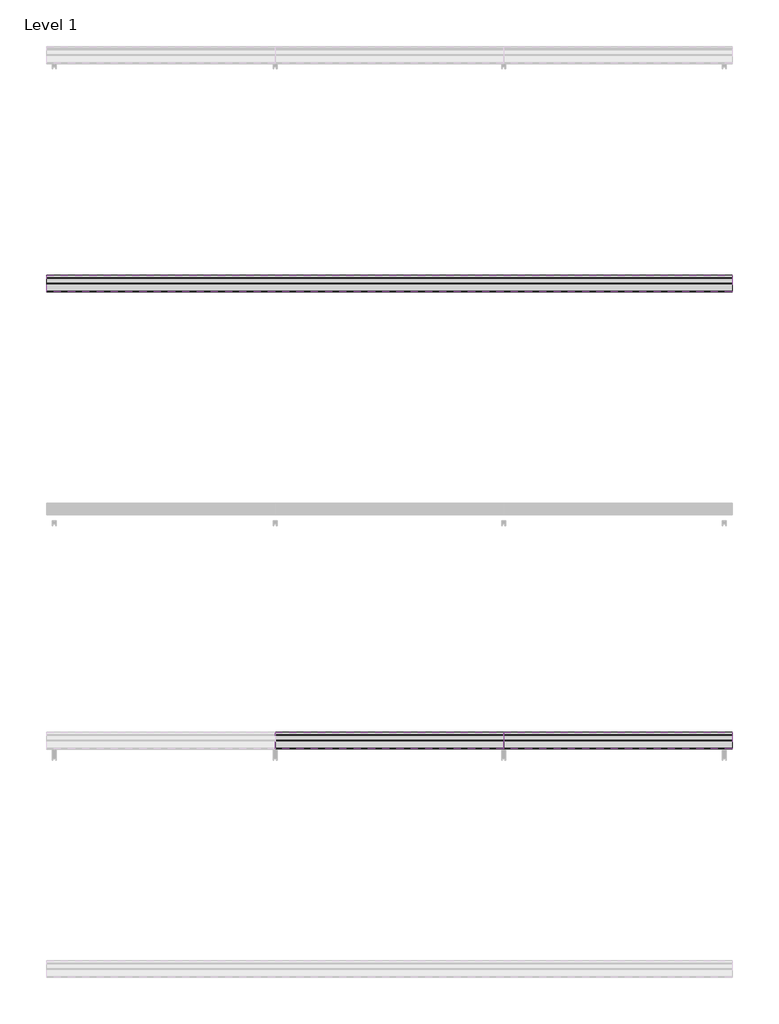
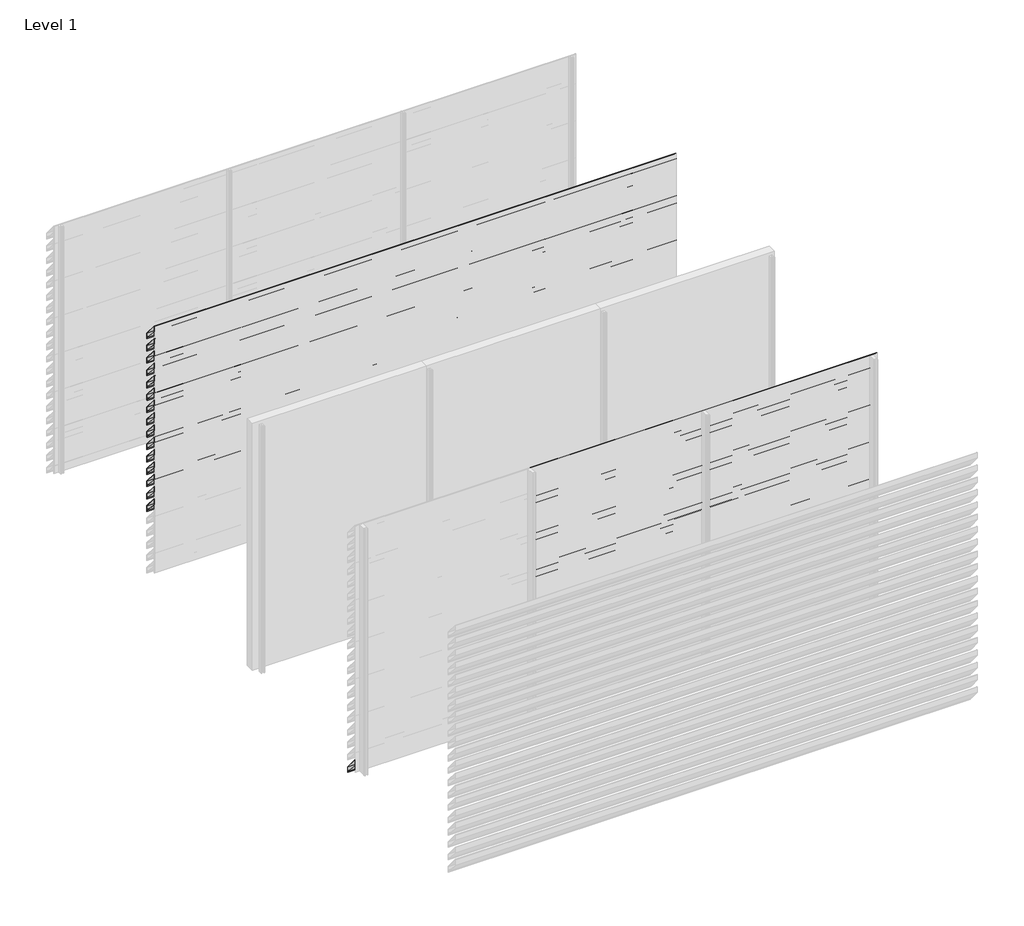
# One storey, part 12 of 16: 56 proxies.
"""IFC4 building model written with IfcOpenShell, lengths in millimetres."""

from ifc_helpers import new_model, si_unit, frame, origin, place, context, project, spatial, polyline, outline, extrude, element, save

model = new_model("IFC4")

# Units and contexts
model_context = context("Model", 3, world=origin())
ifc_project = project(units=[si_unit("LENGTHUNIT", "METRE", prefix="MILLI")], contexts=[model_context])

# Site, building, storey
site = spatial("IfcSite", under=ifc_project)
building = spatial("IfcBuilding", under=site)
storey = spatial("IfcBuildingStorey", under=building, Name="Level 1", Elevation=0.0)

# Proxies
placement = place(None, origin())
element("IfcBuildingElementProxy", 1, Name="Wall Sweeps", at=placement, inside=storey, context=model_context, shape_type="SweptSolid", body=[
    extrude(outline(polyline([(-13851.0, 2830.0), (-13851.0, 2761.0), (-13853.5, 2762.1657691), (-13853.5, 2775.7059843), (-13870.2498671, 2795.6676986), (-13880.9351065, 2795.6676986), (-13998.0, 2935.1802059), (-13998.0, 3000.0), (-13993.6469373, 3000.0), (-13851.0, 2830.0)]), holes=[polyline([(-13996.1, 2998.1), (-13996.1, 2935.8717493), (-13880.049122, 2797.5676986), (-13869.3638825, 2797.5676986), (-13852.9, 2777.9468074), (-13852.9, 2829.3084566), (-13994.5329219, 2998.1), (-13996.1, 2998.1)])]), frame((0.0, 0.0, 0.0), z_axis=(1.0, 0.0, 0.0), x_axis=(0.0, 1.0, 0.0)), (0.0, 0.0, 1.0), 6000.0),
])
element("IfcBuildingElementProxy", 2, Name="Wall Sweeps", at=placement, inside=storey, context=model_context, shape_type="SweptSolid", body=[
    extrude(outline(polyline([(-13851.0, 2680.0), (-13851.0, 2611.0), (-13853.5, 2612.1657691), (-13853.5, 2625.7059843), (-13870.2498671, 2645.6676986), (-13880.9351065, 2645.6676986), (-13998.0, 2785.1802059), (-13998.0, 2850.0), (-13993.6469373, 2850.0), (-13851.0, 2680.0)]), holes=[polyline([(-13996.1, 2848.1), (-13996.1, 2785.8717493), (-13880.049122, 2647.5676986), (-13869.3638825, 2647.5676986), (-13852.9, 2627.9468074), (-13852.9, 2679.3084566), (-13994.5329219, 2848.1), (-13996.1, 2848.1)])]), frame((0.0, 0.0, 0.0), z_axis=(1.0, 0.0, 0.0), x_axis=(0.0, 1.0, 0.0)), (0.0, 0.0, 1.0), 6000.0),
])
element("IfcBuildingElementProxy", 3, Name="Wall Sweeps", at=placement, inside=storey, context=model_context, shape_type="SweptSolid", body=[
    extrude(outline(polyline([(-13851.0, 2530.0), (-13851.0, 2461.0), (-13853.5, 2462.1657691), (-13853.5, 2475.7059843), (-13870.2498671, 2495.6676986), (-13880.9351065, 2495.6676986), (-13998.0, 2635.1802059), (-13998.0, 2700.0), (-13993.6469373, 2700.0), (-13851.0, 2530.0)]), holes=[polyline([(-13996.1, 2698.1), (-13996.1, 2635.8717493), (-13880.049122, 2497.5676986), (-13869.3638825, 2497.5676986), (-13852.9, 2477.9468074), (-13852.9, 2529.3084566), (-13994.5329219, 2698.1), (-13996.1, 2698.1)])]), frame((0.0, 0.0, 0.0), z_axis=(1.0, 0.0, 0.0), x_axis=(0.0, 1.0, 0.0)), (0.0, 0.0, 1.0), 6000.0),
])
element("IfcBuildingElementProxy", 4, Name="Wall Sweeps", at=placement, inside=storey, context=model_context, shape_type="SweptSolid", body=[
    extrude(outline(polyline([(-13851.0, 2380.0), (-13851.0, 2311.0), (-13853.5, 2312.1657691), (-13853.5, 2325.7059843), (-13870.2498671, 2345.6676986), (-13880.9351065, 2345.6676986), (-13998.0, 2485.1802059), (-13998.0, 2550.0), (-13993.6469373, 2550.0), (-13851.0, 2380.0)]), holes=[polyline([(-13996.1, 2548.1), (-13996.1, 2485.8717493), (-13880.049122, 2347.5676986), (-13869.3638825, 2347.5676986), (-13852.9, 2327.9468074), (-13852.9, 2379.3084566), (-13994.5329219, 2548.1), (-13996.1, 2548.1)])]), frame((0.0, 0.0, 0.0), z_axis=(1.0, 0.0, 0.0), x_axis=(0.0, 1.0, 0.0)), (0.0, 0.0, 1.0), 6000.0),
])
element("IfcBuildingElementProxy", 5, Name="Wall Sweeps", at=placement, inside=storey, context=model_context, shape_type="SweptSolid", body=[
    extrude(outline(polyline([(-13851.0, 2230.0), (-13851.0, 2161.0), (-13853.5, 2162.1657691), (-13853.5, 2175.7059843), (-13870.2498671, 2195.6676986), (-13880.9351065, 2195.6676986), (-13998.0, 2335.1802059), (-13998.0, 2400.0), (-13993.6469373, 2400.0), (-13851.0, 2230.0)]), holes=[polyline([(-13996.1, 2398.1), (-13996.1, 2335.8717493), (-13880.049122, 2197.5676986), (-13869.3638825, 2197.5676986), (-13852.9, 2177.9468074), (-13852.9, 2229.3084566), (-13994.5329219, 2398.1), (-13996.1, 2398.1)])]), frame((0.0, 0.0, 0.0), z_axis=(1.0, 0.0, 0.0), x_axis=(0.0, 1.0, 0.0)), (0.0, 0.0, 1.0), 6000.0),
])
element("IfcBuildingElementProxy", 6, Name="Wall Sweeps", at=placement, inside=storey, context=model_context, shape_type="SweptSolid", body=[
    extrude(outline(polyline([(-13851.0, 2080.0), (-13851.0, 2011.0), (-13853.5, 2012.1657691), (-13853.5, 2025.7059843), (-13870.2498671, 2045.6676986), (-13880.9351065, 2045.6676986), (-13998.0, 2185.1802059), (-13998.0, 2250.0), (-13993.6469373, 2250.0), (-13851.0, 2080.0)]), holes=[polyline([(-13996.1, 2248.1), (-13996.1, 2185.8717493), (-13880.049122, 2047.5676986), (-13869.3638825, 2047.5676986), (-13852.9, 2027.9468074), (-13852.9, 2079.3084566), (-13994.5329219, 2248.1), (-13996.1, 2248.1)])]), frame((0.0, 0.0, 0.0), z_axis=(1.0, 0.0, 0.0), x_axis=(0.0, 1.0, 0.0)), (0.0, 0.0, 1.0), 6000.0),
])
element("IfcBuildingElementProxy", 7, Name="Wall Sweeps", at=placement, inside=storey, context=model_context, shape_type="SweptSolid", body=[
    extrude(outline(polyline([(-13851.0, 1930.0), (-13851.0, 1861.0), (-13853.5, 1862.1657691), (-13853.5, 1875.7059843), (-13870.2498671, 1895.6676986), (-13880.9351065, 1895.6676986), (-13998.0, 2035.1802059), (-13998.0, 2100.0), (-13993.6469373, 2100.0), (-13851.0, 1930.0)]), holes=[polyline([(-13996.1, 2098.1), (-13996.1, 2035.8717493), (-13880.049122, 1897.5676986), (-13869.3638825, 1897.5676986), (-13852.9, 1877.9468074), (-13852.9, 1929.3084566), (-13994.5329219, 2098.1), (-13996.1, 2098.1)])]), frame((0.0, 0.0, 0.0), z_axis=(1.0, 0.0, 0.0), x_axis=(0.0, 1.0, 0.0)), (0.0, 0.0, 1.0), 6000.0),
])
element("IfcBuildingElementProxy", 8, Name="Wall Sweeps", at=placement, inside=storey, context=model_context, shape_type="SweptSolid", body=[
    extrude(outline(polyline([(-13851.0, 1780.0), (-13851.0, 1711.0), (-13853.5, 1712.1657691), (-13853.5, 1725.7059843), (-13870.2498671, 1745.6676986), (-13880.9351065, 1745.6676986), (-13998.0, 1885.1802059), (-13998.0, 1950.0), (-13993.6469373, 1950.0), (-13851.0, 1780.0)]), holes=[polyline([(-13996.1, 1948.1), (-13996.1, 1885.8717493), (-13880.049122, 1747.5676986), (-13869.3638825, 1747.5676986), (-13852.9, 1727.9468074), (-13852.9, 1779.3084566), (-13994.5329219, 1948.1), (-13996.1, 1948.1)])]), frame((0.0, 0.0, 0.0), z_axis=(1.0, 0.0, 0.0), x_axis=(0.0, 1.0, 0.0)), (0.0, 0.0, 1.0), 6000.0),
])
element("IfcBuildingElementProxy", 9, Name="Wall Sweeps", at=placement, inside=storey, context=model_context, shape_type="SweptSolid", body=[
    extrude(outline(polyline([(-13851.0, 1630.0), (-13851.0, 1561.0), (-13853.5, 1562.1657691), (-13853.5, 1575.7059843), (-13870.2498671, 1595.6676986), (-13880.9351065, 1595.6676986), (-13998.0, 1735.1802059), (-13998.0, 1800.0), (-13993.6469373, 1800.0), (-13851.0, 1630.0)]), holes=[polyline([(-13996.1, 1798.1), (-13996.1, 1735.8717493), (-13880.049122, 1597.5676986), (-13869.3638825, 1597.5676986), (-13852.9, 1577.9468074), (-13852.9, 1629.3084566), (-13994.5329219, 1798.1), (-13996.1, 1798.1)])]), frame((0.0, 0.0, 0.0), z_axis=(1.0, 0.0, 0.0), x_axis=(0.0, 1.0, 0.0)), (0.0, 0.0, 1.0), 6000.0),
])
element("IfcBuildingElementProxy", 10, Name="Wall Sweeps", at=placement, inside=storey, context=model_context, shape_type="SweptSolid", body=[
    extrude(outline(polyline([(-13851.0, 1480.0), (-13851.0, 1411.0), (-13853.5, 1412.1657691), (-13853.5, 1425.7059843), (-13870.2498671, 1445.6676986), (-13880.9351065, 1445.6676986), (-13998.0, 1585.1802059), (-13998.0, 1650.0), (-13993.6469373, 1650.0), (-13851.0, 1480.0)]), holes=[polyline([(-13996.1, 1648.1), (-13996.1, 1585.8717493), (-13880.049122, 1447.5676986), (-13869.3638825, 1447.5676986), (-13852.9, 1427.9468074), (-13852.9, 1479.3084566), (-13994.5329219, 1648.1), (-13996.1, 1648.1)])]), frame((0.0, 0.0, 0.0), z_axis=(1.0, 0.0, 0.0), x_axis=(0.0, 1.0, 0.0)), (0.0, 0.0, 1.0), 6000.0),
])
element("IfcBuildingElementProxy", 11, Name="Wall Sweeps", at=placement, inside=storey, context=model_context, shape_type="SweptSolid", body=[
    extrude(outline(polyline([(-13851.0, 1330.0), (-13851.0, 1261.0), (-13853.5, 1262.1657691), (-13853.5, 1275.7059843), (-13870.2498671, 1295.6676986), (-13880.9351065, 1295.6676986), (-13998.0, 1435.1802059), (-13998.0, 1500.0), (-13993.6469373, 1500.0), (-13851.0, 1330.0)]), holes=[polyline([(-13996.1, 1498.1), (-13996.1, 1435.8717493), (-13880.049122, 1297.5676986), (-13869.3638825, 1297.5676986), (-13852.9, 1277.9468074), (-13852.9, 1329.3084566), (-13994.5329219, 1498.1), (-13996.1, 1498.1)])]), frame((0.0, 0.0, 0.0), z_axis=(1.0, 0.0, 0.0), x_axis=(0.0, 1.0, 0.0)), (0.0, 0.0, 1.0), 6000.0),
])
element("IfcBuildingElementProxy", 12, Name="Wall Sweeps", at=placement, inside=storey, context=model_context, shape_type="SweptSolid", body=[
    extrude(outline(polyline([(-13851.0, 1180.0), (-13851.0, 1111.0), (-13853.5, 1112.1657691), (-13853.5, 1125.7059843), (-13870.2498671, 1145.6676986), (-13880.9351065, 1145.6676986), (-13998.0, 1285.1802059), (-13998.0, 1350.0), (-13993.6469373, 1350.0), (-13851.0, 1180.0)]), holes=[polyline([(-13996.1, 1348.1), (-13996.1, 1285.8717493), (-13880.049122, 1147.5676986), (-13869.3638825, 1147.5676986), (-13852.9, 1127.9468074), (-13852.9, 1179.3084566), (-13994.5329219, 1348.1), (-13996.1, 1348.1)])]), frame((0.0, 0.0, 0.0), z_axis=(1.0, 0.0, 0.0), x_axis=(0.0, 1.0, 0.0)), (0.0, 0.0, 1.0), 6000.0),
])
element("IfcBuildingElementProxy", 13, Name="Wall Sweeps", at=placement, inside=storey, context=model_context, shape_type="SweptSolid", body=[
    extrude(outline(polyline([(-13851.0, 1030.0), (-13851.0, 961.0), (-13853.5, 962.1657691), (-13853.5, 975.7059843), (-13870.2498671, 995.6676986), (-13880.9351065, 995.6676986), (-13998.0, 1135.1802059), (-13998.0, 1200.0), (-13993.6469373, 1200.0), (-13851.0, 1030.0)]), holes=[polyline([(-13996.1, 1198.1), (-13996.1, 1135.8717493), (-13880.049122, 997.5676986), (-13869.3638825, 997.5676986), (-13852.9, 977.9468074), (-13852.9, 1029.3084566), (-13994.5329219, 1198.1), (-13996.1, 1198.1)])]), frame((0.0, 0.0, 0.0), z_axis=(1.0, 0.0, 0.0), x_axis=(0.0, 1.0, 0.0)), (0.0, 0.0, 1.0), 6000.0),
])
element("IfcBuildingElementProxy", 14, Name="Wall Sweeps", at=placement, inside=storey, context=model_context, shape_type="SweptSolid", body=[
    extrude(outline(polyline([(-13851.0, 880.0), (-13851.0, 811.0), (-13853.5, 812.1657691), (-13853.5, 825.7059843), (-13870.2498671, 845.6676986), (-13880.9351065, 845.6676986), (-13998.0, 985.1802059), (-13998.0, 1050.0), (-13993.6469373, 1050.0), (-13851.0, 880.0)]), holes=[polyline([(-13996.1, 1048.1), (-13996.1, 985.8717493), (-13880.049122, 847.5676986), (-13869.3638825, 847.5676986), (-13852.9, 827.9468074), (-13852.9, 879.3084566), (-13994.5329219, 1048.1), (-13996.1, 1048.1)])]), frame((0.0, 0.0, 0.0), z_axis=(1.0, 0.0, 0.0), x_axis=(0.0, 1.0, 0.0)), (0.0, 0.0, 1.0), 6000.0),
])
element("IfcBuildingElementProxy", 15, Name="Wall Sweeps", at=placement, inside=storey, context=model_context, shape_type="SweptSolid", body=[
    extrude(outline(polyline([(-13851.0, 730.0), (-13851.0, 661.0), (-13853.5, 662.1657691), (-13853.5, 675.7059843), (-13870.2498671, 695.6676986), (-13880.9351065, 695.6676986), (-13998.0, 835.1802059), (-13998.0, 900.0), (-13993.6469373, 900.0), (-13851.0, 730.0)]), holes=[polyline([(-13996.1, 898.1), (-13996.1, 835.8717493), (-13880.049122, 697.5676986), (-13869.3638825, 697.5676986), (-13852.9, 677.9468074), (-13852.9, 729.3084566), (-13994.5329219, 898.1), (-13996.1, 898.1)])]), frame((0.0, 0.0, 0.0), z_axis=(1.0, 0.0, 0.0), x_axis=(0.0, 1.0, 0.0)), (0.0, 0.0, 1.0), 6000.0),
])
element("IfcBuildingElementProxy", 16, Name="Wall Sweeps", at=placement, inside=storey, context=model_context, shape_type="SweptSolid", body=[
    extrude(outline(polyline([(-17851.0, -20.0), (-17851.0, -89.0), (-17853.5, -87.8342309), (-17853.5, -74.2940157), (-17870.2498671, -54.3323014), (-17880.9351065, -54.3323014), (-17998.0, 85.1802059), (-17998.0, 150.0), (-17993.6469373, 150.0), (-17851.0, -20.0)]), holes=[polyline([(-17996.1, 148.1), (-17996.1, 85.8717493), (-17880.049122, -52.4323014), (-17869.3638825, -52.4323014), (-17852.9, -72.0531926), (-17852.9, -20.6915434), (-17994.5329219, 148.1), (-17996.1, 148.1)])]), frame((0.0, 0.0, 0.0), z_axis=(1.0, 0.0, 0.0), x_axis=(0.0, 1.0, 0.0)), (0.0, 0.0, 1.0), 2000.0),
])
element("IfcBuildingElementProxy", 17, Name="Wall Sweeps", at=placement, inside=storey, context=model_context, shape_type="SweptSolid", body=[
    extrude(outline(polyline([(-17851.0, 2830.0), (-17851.0, 2761.0), (-17853.5, 2762.1657691), (-17853.5, 2775.7059843), (-17870.2498671, 2795.6676986), (-17880.9351065, 2795.6676986), (-17998.0, 2935.1802059), (-17998.0, 3000.0), (-17993.6469373, 3000.0), (-17851.0, 2830.0)]), holes=[polyline([(-17996.1, 2998.1), (-17996.1, 2935.8717493), (-17880.049122, 2797.5676986), (-17869.3638825, 2797.5676986), (-17852.9, 2777.9468074), (-17852.9, 2829.3084566), (-17994.5329219, 2998.1), (-17996.1, 2998.1)])]), frame((2000.0, 0.0, 0.0), z_axis=(1.0, 0.0, 0.0), x_axis=(0.0, 1.0, 0.0)), (0.0, 0.0, 1.0), 2000.0),
])
element("IfcBuildingElementProxy", 18, Name="Wall Sweeps", at=placement, inside=storey, context=model_context, shape_type="SweptSolid", body=[
    extrude(outline(polyline([(-17851.0, 2680.0), (-17851.0, 2611.0), (-17853.5, 2612.1657691), (-17853.5, 2625.7059843), (-17870.2498671, 2645.6676986), (-17880.9351065, 2645.6676986), (-17998.0, 2785.1802059), (-17998.0, 2850.0), (-17993.6469373, 2850.0), (-17851.0, 2680.0)]), holes=[polyline([(-17996.1, 2848.1), (-17996.1, 2785.8717493), (-17880.049122, 2647.5676986), (-17869.3638825, 2647.5676986), (-17852.9, 2627.9468074), (-17852.9, 2679.3084566), (-17994.5329219, 2848.1), (-17996.1, 2848.1)])]), frame((2000.0, 0.0, 0.0), z_axis=(1.0, 0.0, 0.0), x_axis=(0.0, 1.0, 0.0)), (0.0, 0.0, 1.0), 2000.0),
])
element("IfcBuildingElementProxy", 19, Name="Wall Sweeps", at=placement, inside=storey, context=model_context, shape_type="SweptSolid", body=[
    extrude(outline(polyline([(-17851.0, 2530.0), (-17851.0, 2461.0), (-17853.5, 2462.1657691), (-17853.5, 2475.7059843), (-17870.2498671, 2495.6676986), (-17880.9351065, 2495.6676986), (-17998.0, 2635.1802059), (-17998.0, 2700.0), (-17993.6469373, 2700.0), (-17851.0, 2530.0)]), holes=[polyline([(-17996.1, 2698.1), (-17996.1, 2635.8717493), (-17880.049122, 2497.5676986), (-17869.3638825, 2497.5676986), (-17852.9, 2477.9468074), (-17852.9, 2529.3084566), (-17994.5329219, 2698.1), (-17996.1, 2698.1)])]), frame((2000.0, 0.0, 0.0), z_axis=(1.0, 0.0, 0.0), x_axis=(0.0, 1.0, 0.0)), (0.0, 0.0, 1.0), 2000.0),
])
element("IfcBuildingElementProxy", 20, Name="Wall Sweeps", at=placement, inside=storey, context=model_context, shape_type="SweptSolid", body=[
    extrude(outline(polyline([(-17851.0, 2380.0), (-17851.0, 2311.0), (-17853.5, 2312.1657691), (-17853.5, 2325.7059843), (-17870.2498671, 2345.6676986), (-17880.9351065, 2345.6676986), (-17998.0, 2485.1802059), (-17998.0, 2550.0), (-17993.6469373, 2550.0), (-17851.0, 2380.0)]), holes=[polyline([(-17996.1, 2548.1), (-17996.1, 2485.8717493), (-17880.049122, 2347.5676986), (-17869.3638825, 2347.5676986), (-17852.9, 2327.9468074), (-17852.9, 2379.3084566), (-17994.5329219, 2548.1), (-17996.1, 2548.1)])]), frame((2000.0, 0.0, 0.0), z_axis=(1.0, 0.0, 0.0), x_axis=(0.0, 1.0, 0.0)), (0.0, 0.0, 1.0), 2000.0),
])
element("IfcBuildingElementProxy", 21, Name="Wall Sweeps", at=placement, inside=storey, context=model_context, shape_type="SweptSolid", body=[
    extrude(outline(polyline([(-17851.0, 2230.0), (-17851.0, 2161.0), (-17853.5, 2162.1657691), (-17853.5, 2175.7059843), (-17870.2498671, 2195.6676986), (-17880.9351065, 2195.6676986), (-17998.0, 2335.1802059), (-17998.0, 2400.0), (-17993.6469373, 2400.0), (-17851.0, 2230.0)]), holes=[polyline([(-17996.1, 2398.1), (-17996.1, 2335.8717493), (-17880.049122, 2197.5676986), (-17869.3638825, 2197.5676986), (-17852.9, 2177.9468074), (-17852.9, 2229.3084566), (-17994.5329219, 2398.1), (-17996.1, 2398.1)])]), frame((2000.0, 0.0, 0.0), z_axis=(1.0, 0.0, 0.0), x_axis=(0.0, 1.0, 0.0)), (0.0, 0.0, 1.0), 2000.0),
])
element("IfcBuildingElementProxy", 22, Name="Wall Sweeps", at=placement, inside=storey, context=model_context, shape_type="SweptSolid", body=[
    extrude(outline(polyline([(-17851.0, 2080.0), (-17851.0, 2011.0), (-17853.5, 2012.1657691), (-17853.5, 2025.7059843), (-17870.2498671, 2045.6676986), (-17880.9351065, 2045.6676986), (-17998.0, 2185.1802059), (-17998.0, 2250.0), (-17993.6469373, 2250.0), (-17851.0, 2080.0)]), holes=[polyline([(-17996.1, 2248.1), (-17996.1, 2185.8717493), (-17880.049122, 2047.5676986), (-17869.3638825, 2047.5676986), (-17852.9, 2027.9468074), (-17852.9, 2079.3084566), (-17994.5329219, 2248.1), (-17996.1, 2248.1)])]), frame((2000.0, 0.0, 0.0), z_axis=(1.0, 0.0, 0.0), x_axis=(0.0, 1.0, 0.0)), (0.0, 0.0, 1.0), 2000.0),
])
element("IfcBuildingElementProxy", 23, Name="Wall Sweeps", at=placement, inside=storey, context=model_context, shape_type="SweptSolid", body=[
    extrude(outline(polyline([(-17851.0, 1930.0), (-17851.0, 1861.0), (-17853.5, 1862.1657691), (-17853.5, 1875.7059843), (-17870.2498671, 1895.6676986), (-17880.9351065, 1895.6676986), (-17998.0, 2035.1802059), (-17998.0, 2100.0), (-17993.6469373, 2100.0), (-17851.0, 1930.0)]), holes=[polyline([(-17996.1, 2098.1), (-17996.1, 2035.8717493), (-17880.049122, 1897.5676986), (-17869.3638825, 1897.5676986), (-17852.9, 1877.9468074), (-17852.9, 1929.3084566), (-17994.5329219, 2098.1), (-17996.1, 2098.1)])]), frame((2000.0, 0.0, 0.0), z_axis=(1.0, 0.0, 0.0), x_axis=(0.0, 1.0, 0.0)), (0.0, 0.0, 1.0), 2000.0),
])
element("IfcBuildingElementProxy", 24, Name="Wall Sweeps", at=placement, inside=storey, context=model_context, shape_type="SweptSolid", body=[
    extrude(outline(polyline([(-17851.0, 1780.0), (-17851.0, 1711.0), (-17853.5, 1712.1657691), (-17853.5, 1725.7059843), (-17870.2498671, 1745.6676986), (-17880.9351065, 1745.6676986), (-17998.0, 1885.1802059), (-17998.0, 1950.0), (-17993.6469373, 1950.0), (-17851.0, 1780.0)]), holes=[polyline([(-17996.1, 1948.1), (-17996.1, 1885.8717493), (-17880.049122, 1747.5676986), (-17869.3638825, 1747.5676986), (-17852.9, 1727.9468074), (-17852.9, 1779.3084566), (-17994.5329219, 1948.1), (-17996.1, 1948.1)])]), frame((2000.0, 0.0, 0.0), z_axis=(1.0, 0.0, 0.0), x_axis=(0.0, 1.0, 0.0)), (0.0, 0.0, 1.0), 2000.0),
])
element("IfcBuildingElementProxy", 25, Name="Wall Sweeps", at=placement, inside=storey, context=model_context, shape_type="SweptSolid", body=[
    extrude(outline(polyline([(-17851.0, 1630.0), (-17851.0, 1561.0), (-17853.5, 1562.1657691), (-17853.5, 1575.7059843), (-17870.2498671, 1595.6676986), (-17880.9351065, 1595.6676986), (-17998.0, 1735.1802059), (-17998.0, 1800.0), (-17993.6469373, 1800.0), (-17851.0, 1630.0)]), holes=[polyline([(-17996.1, 1798.1), (-17996.1, 1735.8717493), (-17880.049122, 1597.5676986), (-17869.3638825, 1597.5676986), (-17852.9, 1577.9468074), (-17852.9, 1629.3084566), (-17994.5329219, 1798.1), (-17996.1, 1798.1)])]), frame((2000.0, 0.0, 0.0), z_axis=(1.0, 0.0, 0.0), x_axis=(0.0, 1.0, 0.0)), (0.0, 0.0, 1.0), 2000.0),
])
element("IfcBuildingElementProxy", 26, Name="Wall Sweeps", at=placement, inside=storey, context=model_context, shape_type="SweptSolid", body=[
    extrude(outline(polyline([(-17851.0, 1480.0), (-17851.0, 1411.0), (-17853.5, 1412.1657691), (-17853.5, 1425.7059843), (-17870.2498671, 1445.6676986), (-17880.9351065, 1445.6676986), (-17998.0, 1585.1802059), (-17998.0, 1650.0), (-17993.6469373, 1650.0), (-17851.0, 1480.0)]), holes=[polyline([(-17996.1, 1648.1), (-17996.1, 1585.8717493), (-17880.049122, 1447.5676986), (-17869.3638825, 1447.5676986), (-17852.9, 1427.9468074), (-17852.9, 1479.3084566), (-17994.5329219, 1648.1), (-17996.1, 1648.1)])]), frame((2000.0, 0.0, 0.0), z_axis=(1.0, 0.0, 0.0), x_axis=(0.0, 1.0, 0.0)), (0.0, 0.0, 1.0), 2000.0),
])
element("IfcBuildingElementProxy", 27, Name="Wall Sweeps", at=placement, inside=storey, context=model_context, shape_type="SweptSolid", body=[
    extrude(outline(polyline([(-17851.0, 1330.0), (-17851.0, 1261.0), (-17853.5, 1262.1657691), (-17853.5, 1275.7059843), (-17870.2498671, 1295.6676986), (-17880.9351065, 1295.6676986), (-17998.0, 1435.1802059), (-17998.0, 1500.0), (-17993.6469373, 1500.0), (-17851.0, 1330.0)]), holes=[polyline([(-17996.1, 1498.1), (-17996.1, 1435.8717493), (-17880.049122, 1297.5676986), (-17869.3638825, 1297.5676986), (-17852.9, 1277.9468074), (-17852.9, 1329.3084566), (-17994.5329219, 1498.1), (-17996.1, 1498.1)])]), frame((2000.0, 0.0, 0.0), z_axis=(1.0, 0.0, 0.0), x_axis=(0.0, 1.0, 0.0)), (0.0, 0.0, 1.0), 2000.0),
])
element("IfcBuildingElementProxy", 28, Name="Wall Sweeps", at=placement, inside=storey, context=model_context, shape_type="SweptSolid", body=[
    extrude(outline(polyline([(-17851.0, 1180.0), (-17851.0, 1111.0), (-17853.5, 1112.1657691), (-17853.5, 1125.7059843), (-17870.2498671, 1145.6676986), (-17880.9351065, 1145.6676986), (-17998.0, 1285.1802059), (-17998.0, 1350.0), (-17993.6469373, 1350.0), (-17851.0, 1180.0)]), holes=[polyline([(-17996.1, 1348.1), (-17996.1, 1285.8717493), (-17880.049122, 1147.5676986), (-17869.3638825, 1147.5676986), (-17852.9, 1127.9468074), (-17852.9, 1179.3084566), (-17994.5329219, 1348.1), (-17996.1, 1348.1)])]), frame((2000.0, 0.0, 0.0), z_axis=(1.0, 0.0, 0.0), x_axis=(0.0, 1.0, 0.0)), (0.0, 0.0, 1.0), 2000.0),
])
element("IfcBuildingElementProxy", 29, Name="Wall Sweeps", at=placement, inside=storey, context=model_context, shape_type="SweptSolid", body=[
    extrude(outline(polyline([(-17851.0, 1030.0), (-17851.0, 961.0), (-17853.5, 962.1657691), (-17853.5, 975.7059843), (-17870.2498671, 995.6676986), (-17880.9351065, 995.6676986), (-17998.0, 1135.1802059), (-17998.0, 1200.0), (-17993.6469373, 1200.0), (-17851.0, 1030.0)]), holes=[polyline([(-17996.1, 1198.1), (-17996.1, 1135.8717493), (-17880.049122, 997.5676986), (-17869.3638825, 997.5676986), (-17852.9, 977.9468074), (-17852.9, 1029.3084566), (-17994.5329219, 1198.1), (-17996.1, 1198.1)])]), frame((2000.0, 0.0, 0.0), z_axis=(1.0, 0.0, 0.0), x_axis=(0.0, 1.0, 0.0)), (0.0, 0.0, 1.0), 2000.0),
])
element("IfcBuildingElementProxy", 30, Name="Wall Sweeps", at=placement, inside=storey, context=model_context, shape_type="SweptSolid", body=[
    extrude(outline(polyline([(-17851.0, 880.0), (-17851.0, 811.0), (-17853.5, 812.1657691), (-17853.5, 825.7059843), (-17870.2498671, 845.6676986), (-17880.9351065, 845.6676986), (-17998.0, 985.1802059), (-17998.0, 1050.0), (-17993.6469373, 1050.0), (-17851.0, 880.0)]), holes=[polyline([(-17996.1, 1048.1), (-17996.1, 985.8717493), (-17880.049122, 847.5676986), (-17869.3638825, 847.5676986), (-17852.9, 827.9468074), (-17852.9, 879.3084566), (-17994.5329219, 1048.1), (-17996.1, 1048.1)])]), frame((2000.0, 0.0, 0.0), z_axis=(1.0, 0.0, 0.0), x_axis=(0.0, 1.0, 0.0)), (0.0, 0.0, 1.0), 2000.0),
])
element("IfcBuildingElementProxy", 31, Name="Wall Sweeps", at=placement, inside=storey, context=model_context, shape_type="SweptSolid", body=[
    extrude(outline(polyline([(-17851.0, 730.0), (-17851.0, 661.0), (-17853.5, 662.1657691), (-17853.5, 675.7059843), (-17870.2498671, 695.6676986), (-17880.9351065, 695.6676986), (-17998.0, 835.1802059), (-17998.0, 900.0), (-17993.6469373, 900.0), (-17851.0, 730.0)]), holes=[polyline([(-17996.1, 898.1), (-17996.1, 835.8717493), (-17880.049122, 697.5676986), (-17869.3638825, 697.5676986), (-17852.9, 677.9468074), (-17852.9, 729.3084566), (-17994.5329219, 898.1), (-17996.1, 898.1)])]), frame((2000.0, 0.0, 0.0), z_axis=(1.0, 0.0, 0.0), x_axis=(0.0, 1.0, 0.0)), (0.0, 0.0, 1.0), 2000.0),
])
element("IfcBuildingElementProxy", 32, Name="Wall Sweeps", at=placement, inside=storey, context=model_context, shape_type="SweptSolid", body=[
    extrude(outline(polyline([(-17851.0, 580.0), (-17851.0, 511.0), (-17853.5, 512.1657691), (-17853.5, 525.7059843), (-17870.2498671, 545.6676986), (-17880.9351065, 545.6676986), (-17998.0, 685.1802059), (-17998.0, 750.0), (-17993.6469373, 750.0), (-17851.0, 580.0)]), holes=[polyline([(-17996.1, 748.1), (-17996.1, 685.8717493), (-17880.049122, 547.5676986), (-17869.3638825, 547.5676986), (-17852.9, 527.9468074), (-17852.9, 579.3084566), (-17994.5329219, 748.1), (-17996.1, 748.1)])]), frame((2000.0, 0.0, 0.0), z_axis=(1.0, 0.0, 0.0), x_axis=(0.0, 1.0, 0.0)), (0.0, 0.0, 1.0), 2000.0),
])
element("IfcBuildingElementProxy", 33, Name="Wall Sweeps", at=placement, inside=storey, context=model_context, shape_type="SweptSolid", body=[
    extrude(outline(polyline([(-17851.0, 430.0), (-17851.0, 361.0), (-17853.5, 362.1657691), (-17853.5, 375.7059843), (-17870.2498671, 395.6676986), (-17880.9351065, 395.6676986), (-17998.0, 535.1802059), (-17998.0, 600.0), (-17993.6469373, 600.0), (-17851.0, 430.0)]), holes=[polyline([(-17996.1, 598.1), (-17996.1, 535.8717493), (-17880.049122, 397.5676986), (-17869.3638825, 397.5676986), (-17852.9, 377.9468074), (-17852.9, 429.3084566), (-17994.5329219, 598.1), (-17996.1, 598.1)])]), frame((2000.0, 0.0, 0.0), z_axis=(1.0, 0.0, 0.0), x_axis=(0.0, 1.0, 0.0)), (0.0, 0.0, 1.0), 2000.0),
])
element("IfcBuildingElementProxy", 34, Name="Wall Sweeps", at=placement, inside=storey, context=model_context, shape_type="SweptSolid", body=[
    extrude(outline(polyline([(-17851.0, 280.0), (-17851.0, 211.0), (-17853.5, 212.1657691), (-17853.5, 225.7059843), (-17870.2498671, 245.6676986), (-17880.9351065, 245.6676986), (-17998.0, 385.1802059), (-17998.0, 450.0), (-17993.6469373, 450.0), (-17851.0, 280.0)]), holes=[polyline([(-17996.1, 448.1), (-17996.1, 385.8717493), (-17880.049122, 247.5676986), (-17869.3638825, 247.5676986), (-17852.9, 227.9468074), (-17852.9, 279.3084566), (-17994.5329219, 448.1), (-17996.1, 448.1)])]), frame((2000.0, 0.0, 0.0), z_axis=(1.0, 0.0, 0.0), x_axis=(0.0, 1.0, 0.0)), (0.0, 0.0, 1.0), 2000.0),
])
element("IfcBuildingElementProxy", 35, Name="Wall Sweeps", at=placement, inside=storey, context=model_context, shape_type="SweptSolid", body=[
    extrude(outline(polyline([(-17851.0, 130.0), (-17851.0, 61.0), (-17853.5, 62.1657691), (-17853.5, 75.7059843), (-17870.2498671, 95.6676986), (-17880.9351065, 95.6676986), (-17998.0, 235.1802059), (-17998.0, 300.0), (-17993.6469373, 300.0), (-17851.0, 130.0)]), holes=[polyline([(-17996.1, 298.1), (-17996.1, 235.8717493), (-17880.049122, 97.5676986), (-17869.3638825, 97.5676986), (-17852.9, 77.9468074), (-17852.9, 129.3084566), (-17994.5329219, 298.1), (-17996.1, 298.1)])]), frame((2000.0, 0.0, 0.0), z_axis=(1.0, 0.0, 0.0), x_axis=(0.0, 1.0, 0.0)), (0.0, 0.0, 1.0), 2000.0),
])
element("IfcBuildingElementProxy", 36, Name="Wall Sweeps", at=placement, inside=storey, context=model_context, shape_type="SweptSolid", body=[
    extrude(outline(polyline([(-17851.0, -20.0), (-17851.0, -89.0), (-17853.5, -87.8342309), (-17853.5, -74.2940157), (-17870.2498671, -54.3323014), (-17880.9351065, -54.3323014), (-17998.0, 85.1802059), (-17998.0, 150.0), (-17993.6469373, 150.0), (-17851.0, -20.0)]), holes=[polyline([(-17996.1, 148.1), (-17996.1, 85.8717493), (-17880.049122, -52.4323014), (-17869.3638825, -52.4323014), (-17852.9, -72.0531926), (-17852.9, -20.6915434), (-17994.5329219, 148.1), (-17996.1, 148.1)])]), frame((2000.0, 0.0, 0.0), z_axis=(1.0, 0.0, 0.0), x_axis=(0.0, 1.0, 0.0)), (0.0, 0.0, 1.0), 2000.0),
])
element("IfcBuildingElementProxy", 37, Name="Wall Sweeps", at=placement, inside=storey, context=model_context, shape_type="SweptSolid", body=[
    extrude(outline(polyline([(-17851.0, 2830.0), (-17851.0, 2761.0), (-17853.5, 2762.1657691), (-17853.5, 2775.7059843), (-17870.2498671, 2795.6676986), (-17880.9351065, 2795.6676986), (-17998.0, 2935.1802059), (-17998.0, 3000.0), (-17993.6469373, 3000.0), (-17851.0, 2830.0)]), holes=[polyline([(-17996.1, 2998.1), (-17996.1, 2935.8717493), (-17880.049122, 2797.5676986), (-17869.3638825, 2797.5676986), (-17852.9, 2777.9468074), (-17852.9, 2829.3084566), (-17994.5329219, 2998.1), (-17996.1, 2998.1)])]), frame((4000.0, 0.0, 0.0), z_axis=(1.0, 0.0, 0.0), x_axis=(0.0, 1.0, 0.0)), (0.0, 0.0, 1.0), 2000.0),
])
element("IfcBuildingElementProxy", 38, Name="Wall Sweeps", at=placement, inside=storey, context=model_context, shape_type="SweptSolid", body=[
    extrude(outline(polyline([(-17851.0, 2680.0), (-17851.0, 2611.0), (-17853.5, 2612.1657691), (-17853.5, 2625.7059843), (-17870.2498671, 2645.6676986), (-17880.9351065, 2645.6676986), (-17998.0, 2785.1802059), (-17998.0, 2850.0), (-17993.6469373, 2850.0), (-17851.0, 2680.0)]), holes=[polyline([(-17996.1, 2848.1), (-17996.1, 2785.8717493), (-17880.049122, 2647.5676986), (-17869.3638825, 2647.5676986), (-17852.9, 2627.9468074), (-17852.9, 2679.3084566), (-17994.5329219, 2848.1), (-17996.1, 2848.1)])]), frame((4000.0, 0.0, 0.0), z_axis=(1.0, 0.0, 0.0), x_axis=(0.0, 1.0, 0.0)), (0.0, 0.0, 1.0), 2000.0),
])
element("IfcBuildingElementProxy", 39, Name="Wall Sweeps", at=placement, inside=storey, context=model_context, shape_type="SweptSolid", body=[
    extrude(outline(polyline([(-17851.0, 2530.0), (-17851.0, 2461.0), (-17853.5, 2462.1657691), (-17853.5, 2475.7059843), (-17870.2498671, 2495.6676986), (-17880.9351065, 2495.6676986), (-17998.0, 2635.1802059), (-17998.0, 2700.0), (-17993.6469373, 2700.0), (-17851.0, 2530.0)]), holes=[polyline([(-17996.1, 2698.1), (-17996.1, 2635.8717493), (-17880.049122, 2497.5676986), (-17869.3638825, 2497.5676986), (-17852.9, 2477.9468074), (-17852.9, 2529.3084566), (-17994.5329219, 2698.1), (-17996.1, 2698.1)])]), frame((4000.0, 0.0, 0.0), z_axis=(1.0, 0.0, 0.0), x_axis=(0.0, 1.0, 0.0)), (0.0, 0.0, 1.0), 2000.0),
])
element("IfcBuildingElementProxy", 40, Name="Wall Sweeps", at=placement, inside=storey, context=model_context, shape_type="SweptSolid", body=[
    extrude(outline(polyline([(-17851.0, 2380.0), (-17851.0, 2311.0), (-17853.5, 2312.1657691), (-17853.5, 2325.7059843), (-17870.2498671, 2345.6676986), (-17880.9351065, 2345.6676986), (-17998.0, 2485.1802059), (-17998.0, 2550.0), (-17993.6469373, 2550.0), (-17851.0, 2380.0)]), holes=[polyline([(-17996.1, 2548.1), (-17996.1, 2485.8717493), (-17880.049122, 2347.5676986), (-17869.3638825, 2347.5676986), (-17852.9, 2327.9468074), (-17852.9, 2379.3084566), (-17994.5329219, 2548.1), (-17996.1, 2548.1)])]), frame((4000.0, 0.0, 0.0), z_axis=(1.0, 0.0, 0.0), x_axis=(0.0, 1.0, 0.0)), (0.0, 0.0, 1.0), 2000.0),
])
element("IfcBuildingElementProxy", 41, Name="Wall Sweeps", at=placement, inside=storey, context=model_context, shape_type="SweptSolid", body=[
    extrude(outline(polyline([(-17851.0, 2230.0), (-17851.0, 2161.0), (-17853.5, 2162.1657691), (-17853.5, 2175.7059843), (-17870.2498671, 2195.6676986), (-17880.9351065, 2195.6676986), (-17998.0, 2335.1802059), (-17998.0, 2400.0), (-17993.6469373, 2400.0), (-17851.0, 2230.0)]), holes=[polyline([(-17996.1, 2398.1), (-17996.1, 2335.8717493), (-17880.049122, 2197.5676986), (-17869.3638825, 2197.5676986), (-17852.9, 2177.9468074), (-17852.9, 2229.3084566), (-17994.5329219, 2398.1), (-17996.1, 2398.1)])]), frame((4000.0, 0.0, 0.0), z_axis=(1.0, 0.0, 0.0), x_axis=(0.0, 1.0, 0.0)), (0.0, 0.0, 1.0), 2000.0),
])
element("IfcBuildingElementProxy", 42, Name="Wall Sweeps", at=placement, inside=storey, context=model_context, shape_type="SweptSolid", body=[
    extrude(outline(polyline([(-17851.0, 2080.0), (-17851.0, 2011.0), (-17853.5, 2012.1657691), (-17853.5, 2025.7059843), (-17870.2498671, 2045.6676986), (-17880.9351065, 2045.6676986), (-17998.0, 2185.1802059), (-17998.0, 2250.0), (-17993.6469373, 2250.0), (-17851.0, 2080.0)]), holes=[polyline([(-17996.1, 2248.1), (-17996.1, 2185.8717493), (-17880.049122, 2047.5676986), (-17869.3638825, 2047.5676986), (-17852.9, 2027.9468074), (-17852.9, 2079.3084566), (-17994.5329219, 2248.1), (-17996.1, 2248.1)])]), frame((4000.0, 0.0, 0.0), z_axis=(1.0, 0.0, 0.0), x_axis=(0.0, 1.0, 0.0)), (0.0, 0.0, 1.0), 2000.0),
])
element("IfcBuildingElementProxy", 43, Name="Wall Sweeps", at=placement, inside=storey, context=model_context, shape_type="SweptSolid", body=[
    extrude(outline(polyline([(-17851.0, 1930.0), (-17851.0, 1861.0), (-17853.5, 1862.1657691), (-17853.5, 1875.7059843), (-17870.2498671, 1895.6676986), (-17880.9351065, 1895.6676986), (-17998.0, 2035.1802059), (-17998.0, 2100.0), (-17993.6469373, 2100.0), (-17851.0, 1930.0)]), holes=[polyline([(-17996.1, 2098.1), (-17996.1, 2035.8717493), (-17880.049122, 1897.5676986), (-17869.3638825, 1897.5676986), (-17852.9, 1877.9468074), (-17852.9, 1929.3084566), (-17994.5329219, 2098.1), (-17996.1, 2098.1)])]), frame((4000.0, 0.0, 0.0), z_axis=(1.0, 0.0, 0.0), x_axis=(0.0, 1.0, 0.0)), (0.0, 0.0, 1.0), 2000.0),
])
element("IfcBuildingElementProxy", 44, Name="Wall Sweeps", at=placement, inside=storey, context=model_context, shape_type="SweptSolid", body=[
    extrude(outline(polyline([(-17851.0, 1780.0), (-17851.0, 1711.0), (-17853.5, 1712.1657691), (-17853.5, 1725.7059843), (-17870.2498671, 1745.6676986), (-17880.9351065, 1745.6676986), (-17998.0, 1885.1802059), (-17998.0, 1950.0), (-17993.6469373, 1950.0), (-17851.0, 1780.0)]), holes=[polyline([(-17996.1, 1948.1), (-17996.1, 1885.8717493), (-17880.049122, 1747.5676986), (-17869.3638825, 1747.5676986), (-17852.9, 1727.9468074), (-17852.9, 1779.3084566), (-17994.5329219, 1948.1), (-17996.1, 1948.1)])]), frame((4000.0, 0.0, 0.0), z_axis=(1.0, 0.0, 0.0), x_axis=(0.0, 1.0, 0.0)), (0.0, 0.0, 1.0), 2000.0),
])
element("IfcBuildingElementProxy", 45, Name="Wall Sweeps", at=placement, inside=storey, context=model_context, shape_type="SweptSolid", body=[
    extrude(outline(polyline([(-17851.0, 1630.0), (-17851.0, 1561.0), (-17853.5, 1562.1657691), (-17853.5, 1575.7059843), (-17870.2498671, 1595.6676986), (-17880.9351065, 1595.6676986), (-17998.0, 1735.1802059), (-17998.0, 1800.0), (-17993.6469373, 1800.0), (-17851.0, 1630.0)]), holes=[polyline([(-17996.1, 1798.1), (-17996.1, 1735.8717493), (-17880.049122, 1597.5676986), (-17869.3638825, 1597.5676986), (-17852.9, 1577.9468074), (-17852.9, 1629.3084566), (-17994.5329219, 1798.1), (-17996.1, 1798.1)])]), frame((4000.0, 0.0, 0.0), z_axis=(1.0, 0.0, 0.0), x_axis=(0.0, 1.0, 0.0)), (0.0, 0.0, 1.0), 2000.0),
])
element("IfcBuildingElementProxy", 46, Name="Wall Sweeps", at=placement, inside=storey, context=model_context, shape_type="SweptSolid", body=[
    extrude(outline(polyline([(-17851.0, 1480.0), (-17851.0, 1411.0), (-17853.5, 1412.1657691), (-17853.5, 1425.7059843), (-17870.2498671, 1445.6676986), (-17880.9351065, 1445.6676986), (-17998.0, 1585.1802059), (-17998.0, 1650.0), (-17993.6469373, 1650.0), (-17851.0, 1480.0)]), holes=[polyline([(-17996.1, 1648.1), (-17996.1, 1585.8717493), (-17880.049122, 1447.5676986), (-17869.3638825, 1447.5676986), (-17852.9, 1427.9468074), (-17852.9, 1479.3084566), (-17994.5329219, 1648.1), (-17996.1, 1648.1)])]), frame((4000.0, 0.0, 0.0), z_axis=(1.0, 0.0, 0.0), x_axis=(0.0, 1.0, 0.0)), (0.0, 0.0, 1.0), 2000.0),
])
element("IfcBuildingElementProxy", 47, Name="Wall Sweeps", at=placement, inside=storey, context=model_context, shape_type="SweptSolid", body=[
    extrude(outline(polyline([(-17851.0, 1330.0), (-17851.0, 1261.0), (-17853.5, 1262.1657691), (-17853.5, 1275.7059843), (-17870.2498671, 1295.6676986), (-17880.9351065, 1295.6676986), (-17998.0, 1435.1802059), (-17998.0, 1500.0), (-17993.6469373, 1500.0), (-17851.0, 1330.0)]), holes=[polyline([(-17996.1, 1498.1), (-17996.1, 1435.8717493), (-17880.049122, 1297.5676986), (-17869.3638825, 1297.5676986), (-17852.9, 1277.9468074), (-17852.9, 1329.3084566), (-17994.5329219, 1498.1), (-17996.1, 1498.1)])]), frame((4000.0, 0.0, 0.0), z_axis=(1.0, 0.0, 0.0), x_axis=(0.0, 1.0, 0.0)), (0.0, 0.0, 1.0), 2000.0),
])
element("IfcBuildingElementProxy", 48, Name="Wall Sweeps", at=placement, inside=storey, context=model_context, shape_type="SweptSolid", body=[
    extrude(outline(polyline([(-17851.0, 1180.0), (-17851.0, 1111.0), (-17853.5, 1112.1657691), (-17853.5, 1125.7059843), (-17870.2498671, 1145.6676986), (-17880.9351065, 1145.6676986), (-17998.0, 1285.1802059), (-17998.0, 1350.0), (-17993.6469373, 1350.0), (-17851.0, 1180.0)]), holes=[polyline([(-17996.1, 1348.1), (-17996.1, 1285.8717493), (-17880.049122, 1147.5676986), (-17869.3638825, 1147.5676986), (-17852.9, 1127.9468074), (-17852.9, 1179.3084566), (-17994.5329219, 1348.1), (-17996.1, 1348.1)])]), frame((4000.0, 0.0, 0.0), z_axis=(1.0, 0.0, 0.0), x_axis=(0.0, 1.0, 0.0)), (0.0, 0.0, 1.0), 2000.0),
])
element("IfcBuildingElementProxy", 49, Name="Wall Sweeps", at=placement, inside=storey, context=model_context, shape_type="SweptSolid", body=[
    extrude(outline(polyline([(-17851.0, 1030.0), (-17851.0, 961.0), (-17853.5, 962.1657691), (-17853.5, 975.7059843), (-17870.2498671, 995.6676986), (-17880.9351065, 995.6676986), (-17998.0, 1135.1802059), (-17998.0, 1200.0), (-17993.6469373, 1200.0), (-17851.0, 1030.0)]), holes=[polyline([(-17996.1, 1198.1), (-17996.1, 1135.8717493), (-17880.049122, 997.5676986), (-17869.3638825, 997.5676986), (-17852.9, 977.9468074), (-17852.9, 1029.3084566), (-17994.5329219, 1198.1), (-17996.1, 1198.1)])]), frame((4000.0, 0.0, 0.0), z_axis=(1.0, 0.0, 0.0), x_axis=(0.0, 1.0, 0.0)), (0.0, 0.0, 1.0), 2000.0),
])
element("IfcBuildingElementProxy", 50, Name="Wall Sweeps", at=placement, inside=storey, context=model_context, shape_type="SweptSolid", body=[
    extrude(outline(polyline([(-17851.0, 880.0), (-17851.0, 811.0), (-17853.5, 812.1657691), (-17853.5, 825.7059843), (-17870.2498671, 845.6676986), (-17880.9351065, 845.6676986), (-17998.0, 985.1802059), (-17998.0, 1050.0), (-17993.6469373, 1050.0), (-17851.0, 880.0)]), holes=[polyline([(-17996.1, 1048.1), (-17996.1, 985.8717493), (-17880.049122, 847.5676986), (-17869.3638825, 847.5676986), (-17852.9, 827.9468074), (-17852.9, 879.3084566), (-17994.5329219, 1048.1), (-17996.1, 1048.1)])]), frame((4000.0, 0.0, 0.0), z_axis=(1.0, 0.0, 0.0), x_axis=(0.0, 1.0, 0.0)), (0.0, 0.0, 1.0), 2000.0),
])
element("IfcBuildingElementProxy", 51, Name="Wall Sweeps", at=placement, inside=storey, context=model_context, shape_type="SweptSolid", body=[
    extrude(outline(polyline([(-17851.0, 730.0), (-17851.0, 661.0), (-17853.5, 662.1657691), (-17853.5, 675.7059843), (-17870.2498671, 695.6676986), (-17880.9351065, 695.6676986), (-17998.0, 835.1802059), (-17998.0, 900.0), (-17993.6469373, 900.0), (-17851.0, 730.0)]), holes=[polyline([(-17996.1, 898.1), (-17996.1, 835.8717493), (-17880.049122, 697.5676986), (-17869.3638825, 697.5676986), (-17852.9, 677.9468074), (-17852.9, 729.3084566), (-17994.5329219, 898.1), (-17996.1, 898.1)])]), frame((4000.0, 0.0, 0.0), z_axis=(1.0, 0.0, 0.0), x_axis=(0.0, 1.0, 0.0)), (0.0, 0.0, 1.0), 2000.0),
])
element("IfcBuildingElementProxy", 52, Name="Wall Sweeps", at=placement, inside=storey, context=model_context, shape_type="SweptSolid", body=[
    extrude(outline(polyline([(-17851.0, 580.0), (-17851.0, 511.0), (-17853.5, 512.1657691), (-17853.5, 525.7059843), (-17870.2498671, 545.6676986), (-17880.9351065, 545.6676986), (-17998.0, 685.1802059), (-17998.0, 750.0), (-17993.6469373, 750.0), (-17851.0, 580.0)]), holes=[polyline([(-17996.1, 748.1), (-17996.1, 685.8717493), (-17880.049122, 547.5676986), (-17869.3638825, 547.5676986), (-17852.9, 527.9468074), (-17852.9, 579.3084566), (-17994.5329219, 748.1), (-17996.1, 748.1)])]), frame((4000.0, 0.0, 0.0), z_axis=(1.0, 0.0, 0.0), x_axis=(0.0, 1.0, 0.0)), (0.0, 0.0, 1.0), 2000.0),
])
element("IfcBuildingElementProxy", 53, Name="Wall Sweeps", at=placement, inside=storey, context=model_context, shape_type="SweptSolid", body=[
    extrude(outline(polyline([(-17851.0, 430.0), (-17851.0, 361.0), (-17853.5, 362.1657691), (-17853.5, 375.7059843), (-17870.2498671, 395.6676986), (-17880.9351065, 395.6676986), (-17998.0, 535.1802059), (-17998.0, 600.0), (-17993.6469373, 600.0), (-17851.0, 430.0)]), holes=[polyline([(-17996.1, 598.1), (-17996.1, 535.8717493), (-17880.049122, 397.5676986), (-17869.3638825, 397.5676986), (-17852.9, 377.9468074), (-17852.9, 429.3084566), (-17994.5329219, 598.1), (-17996.1, 598.1)])]), frame((4000.0, 0.0, 0.0), z_axis=(1.0, 0.0, 0.0), x_axis=(0.0, 1.0, 0.0)), (0.0, 0.0, 1.0), 2000.0),
])
element("IfcBuildingElementProxy", 54, Name="Wall Sweeps", at=placement, inside=storey, context=model_context, shape_type="SweptSolid", body=[
    extrude(outline(polyline([(-17851.0, 280.0), (-17851.0, 211.0), (-17853.5, 212.1657691), (-17853.5, 225.7059843), (-17870.2498671, 245.6676986), (-17880.9351065, 245.6676986), (-17998.0, 385.1802059), (-17998.0, 450.0), (-17993.6469373, 450.0), (-17851.0, 280.0)]), holes=[polyline([(-17996.1, 448.1), (-17996.1, 385.8717493), (-17880.049122, 247.5676986), (-17869.3638825, 247.5676986), (-17852.9, 227.9468074), (-17852.9, 279.3084566), (-17994.5329219, 448.1), (-17996.1, 448.1)])]), frame((4000.0, 0.0, 0.0), z_axis=(1.0, 0.0, 0.0), x_axis=(0.0, 1.0, 0.0)), (0.0, 0.0, 1.0), 2000.0),
])
element("IfcBuildingElementProxy", 55, Name="Wall Sweeps", at=placement, inside=storey, context=model_context, shape_type="SweptSolid", body=[
    extrude(outline(polyline([(-17851.0, 130.0), (-17851.0, 61.0), (-17853.5, 62.1657691), (-17853.5, 75.7059843), (-17870.2498671, 95.6676986), (-17880.9351065, 95.6676986), (-17998.0, 235.1802059), (-17998.0, 300.0), (-17993.6469373, 300.0), (-17851.0, 130.0)]), holes=[polyline([(-17996.1, 298.1), (-17996.1, 235.8717493), (-17880.049122, 97.5676986), (-17869.3638825, 97.5676986), (-17852.9, 77.9468074), (-17852.9, 129.3084566), (-17994.5329219, 298.1), (-17996.1, 298.1)])]), frame((4000.0, 0.0, 0.0), z_axis=(1.0, 0.0, 0.0), x_axis=(0.0, 1.0, 0.0)), (0.0, 0.0, 1.0), 2000.0),
])
element("IfcBuildingElementProxy", 56, Name="Wall Sweeps", at=placement, inside=storey, context=model_context, shape_type="SweptSolid", body=[
    extrude(outline(polyline([(-17851.0, -20.0), (-17851.0, -89.0), (-17853.5, -87.8342309), (-17853.5, -74.2940157), (-17870.2498671, -54.3323014), (-17880.9351065, -54.3323014), (-17998.0, 85.1802059), (-17998.0, 150.0), (-17993.6469373, 150.0), (-17851.0, -20.0)]), holes=[polyline([(-17996.1, 148.1), (-17996.1, 85.8717493), (-17880.049122, -52.4323014), (-17869.3638825, -52.4323014), (-17852.9, -72.0531926), (-17852.9, -20.6915434), (-17994.5329219, 148.1), (-17996.1, 148.1)])]), frame((4000.0, 0.0, 0.0), z_axis=(1.0, 0.0, 0.0), x_axis=(0.0, 1.0, 0.0)), (0.0, 0.0, 1.0), 2000.0),
])

save(model, "model.ifc")
